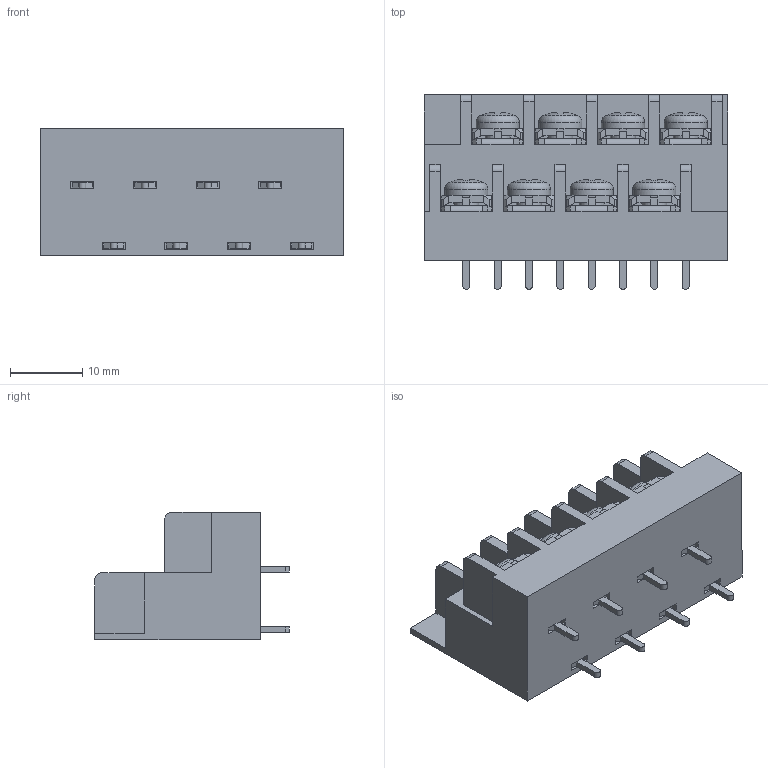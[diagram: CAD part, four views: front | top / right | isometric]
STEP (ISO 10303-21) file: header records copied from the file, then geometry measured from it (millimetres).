
FILE_DESCRIPTION(/* description */ ('Alibre Inc.'),/* implementation_level */ '2;1');
FILE_NAME(/* name */ 'export-4AFC25B9-0B88-4E73-BF7F-CF4714610B54',/* time_stamp */ '2021-02-09T10:55:24+09:00',/* author */ (''),/* organization */ (''),/* preprocessor_version */ 'ST-DEVELOPER v17',/* originating_system */ 'Alibre',/* authorisation */ '');
FILE_SCHEMA (('CONFIG_CONTROL_DESIGN'));
Length unit declared in the file: millimetre
Bounding box: 42.15 x 27 x 17.7 mm (x, y, z)
Volume: 10782.5 mm3; surface area: 7332 mm2
Topology: 1 solids, 25 shells, 1528 faces, 3838 edges, 2428 vertices
Faces by surface type: plane 1092, bspline 258, cylinder 74, extrusion 32, cone 32, torus 24, sphere 16
Full cylindrical faces by diameter (mm): 3.5 x16, 4.5 x8, 5 x8, 6 x8
Entity records: 47447 total; most frequent: CARTESIAN_POINT 15029, ORIENTED_EDGE 7484, DIRECTION 4663, EDGE_CURVE 3742, VECTOR 2669, LINE 2653, VERTEX_POINT 2396, EDGE_LOOP 1684
